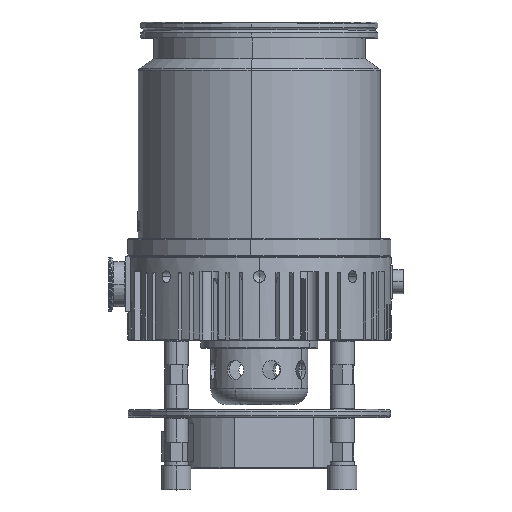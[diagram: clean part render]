
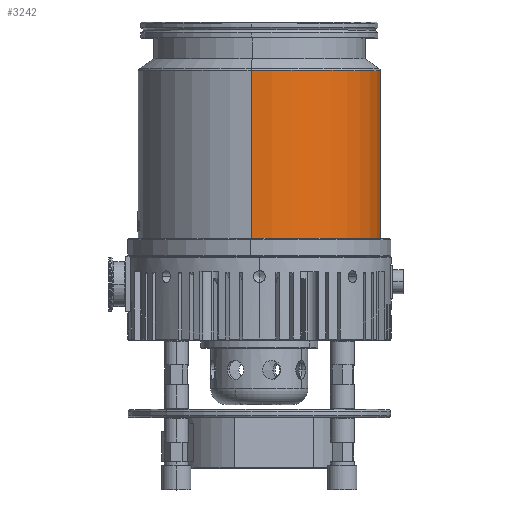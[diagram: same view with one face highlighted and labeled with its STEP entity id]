
A CAD part, top view. The second image highlights one B-rep face of the part: STEP entity #3242.
In plain terms, the highlighted cylindrical face has radius 122.5 mm (diameter 245 mm), a partial arc.
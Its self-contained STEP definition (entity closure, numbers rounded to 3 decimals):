
#3242 = ADVANCED_FACE ( 'NONE', ( #13163 ), #8925, .T. ) ;
#8247 = VERTEX_POINT ( 'NONE', #41863 ) ;
#8925 = CYLINDRICAL_SURFACE ( 'NONE', #155789, 122.5 ) ;
#13163 = FACE_OUTER_BOUND ( 'NONE', #188265, .T. ) ;
#25480 = DIRECTION ( 'NONE',  ( 0., -1., 0. ) ) ;
#25627 = VERTEX_POINT ( 'NONE', #186959 ) ;
#26852 = AXIS2_PLACEMENT_3D ( 'NONE', #100032, #101702, #103787 ) ;
#34929 = EDGE_CURVE ( 'NONE', #127341, #163784, #36764, .T. ) ;
#34975 = EDGE_CURVE ( 'NONE', #163784, #8247, #71251, .T. ) ;
#36764 = CIRCLE ( 'NONE', #26852, 122.5 ) ;
#37834 = EDGE_CURVE ( 'NONE', #8247, #25627, #163800, .T. ) ;
#38060 = EDGE_CURVE ( 'NONE', #127341, #25627, #111490, .T. ) ;
#41474 = ORIENTED_EDGE ( 'NONE', *, *, #34975, .T. ) ;
#41863 = CARTESIAN_POINT ( 'NONE',  ( 0., -165.483, 122.5 ) ) ;
#47031 = CARTESIAN_POINT ( 'NONE',  ( 0., -165.483, 0. ) ) ;
#61848 = DIRECTION ( 'NONE',  ( 0., 0., -1. ) ) ;
#68183 = VECTOR ( 'NONE', #25480, 1000. ) ;
#71251 = LINE ( 'NONE', #117652, #187195 ) ;
#93559 = DIRECTION ( 'NONE',  ( 0., -1., 0. ) ) ;
#95093 = CARTESIAN_POINT ( 'NONE',  ( 0., 4.126, -122.5 ) ) ;
#99282 = CARTESIAN_POINT ( 'NONE',  ( 0., 0., -122.5 ) ) ;
#100032 = CARTESIAN_POINT ( 'NONE',  ( 0., 4.126, 0. ) ) ;
#100131 = ORIENTED_EDGE ( 'NONE', *, *, #34929, .T. ) ;
#101702 = DIRECTION ( 'NONE',  ( 0., -1., 0. ) ) ;
#103787 = DIRECTION ( 'NONE',  ( 0., 0., -1. ) ) ;
#111490 = LINE ( 'NONE', #99282, #68183 ) ;
#117652 = CARTESIAN_POINT ( 'NONE',  ( 0., 0., 122.5 ) ) ;
#127341 = VERTEX_POINT ( 'NONE', #95093 ) ;
#136552 = AXIS2_PLACEMENT_3D ( 'NONE', #47031, #149087, #61848 ) ;
#149087 = DIRECTION ( 'NONE',  ( 0., 1., 0. ) ) ;
#155789 = AXIS2_PLACEMENT_3D ( 'NONE', #162470, #162308, #167041 ) ;
#159452 = ORIENTED_EDGE ( 'NONE', *, *, #38060, .F. ) ;
#162057 = CARTESIAN_POINT ( 'NONE',  ( 0., 4.126, 122.5 ) ) ;
#162308 = DIRECTION ( 'NONE',  ( 0., -1., 0. ) ) ;
#162470 = CARTESIAN_POINT ( 'NONE',  ( 0., 0., 0. ) ) ;
#163784 = VERTEX_POINT ( 'NONE', #162057 ) ;
#163800 = CIRCLE ( 'NONE', #136552, 122.5 ) ;
#164139 = ORIENTED_EDGE ( 'NONE', *, *, #37834, .T. ) ;
#167041 = DIRECTION ( 'NONE',  ( 0., 0., -1. ) ) ;
#186959 = CARTESIAN_POINT ( 'NONE',  ( 0., -165.483, -122.5 ) ) ;
#187195 = VECTOR ( 'NONE', #93559, 1000. ) ;
#188265 = EDGE_LOOP ( 'NONE', ( #100131, #41474, #164139, #159452 ) ) ;
